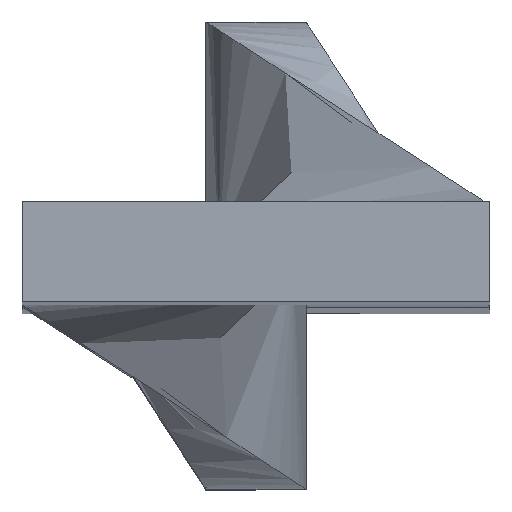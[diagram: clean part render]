
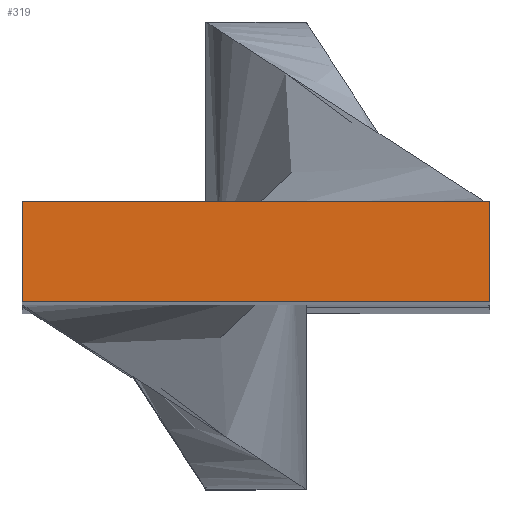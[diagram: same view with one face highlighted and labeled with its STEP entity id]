
A CAD part, top view. The second image highlights one B-rep face of the part: STEP entity #319.
In plain terms, the highlighted planar face has unit normal (0, 0, 1).
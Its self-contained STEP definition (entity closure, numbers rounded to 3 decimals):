
#75 = LINE ( 'NONE', #630, #367 ) ;
#84 = LINE ( 'NONE', #187, #404 ) ;
#95 = VERTEX_POINT ( 'NONE', #640 ) ;
#132 = CARTESIAN_POINT ( 'NONE',  ( 0., 0., 208.5 ) ) ;
#134 = DIRECTION ( 'NONE',  ( -1., 0., 0. ) ) ;
#183 = DIRECTION ( 'NONE',  ( 0., 1., 0. ) ) ;
#187 = CARTESIAN_POINT ( 'NONE',  ( -7., -1.5, 208.5 ) ) ;
#211 = EDGE_LOOP ( 'NONE', ( #621, #316, #597, #219 ) ) ;
#217 = DIRECTION ( 'NONE',  ( 0., 0., -1. ) ) ;
#219 = ORIENTED_EDGE ( 'NONE', *, *, #459, .F. ) ;
#236 = PLANE ( 'NONE',  #677 ) ;
#260 = CARTESIAN_POINT ( 'NONE',  ( -7., 1.5, 208.5 ) ) ;
#267 = DIRECTION ( 'NONE',  ( 1., 0., 0. ) ) ;
#302 = CARTESIAN_POINT ( 'NONE',  ( 7., 1.5, 208.5 ) ) ;
#305 = DIRECTION ( 'NONE',  ( 0., -1., 0. ) ) ;
#316 = ORIENTED_EDGE ( 'NONE', *, *, #553, .F. ) ;
#319 = ADVANCED_FACE ( 'NONE', ( #817 ), #236, .F. ) ;
#356 = LINE ( 'NONE', #260, #699 ) ;
#363 = EDGE_CURVE ( 'NONE', #633, #95, #84, .T. ) ;
#367 = VECTOR ( 'NONE', #615, 1000. ) ;
#404 = VECTOR ( 'NONE', #183, 1000. ) ;
#454 = CARTESIAN_POINT ( 'NONE',  ( 7., 1.5, 208.5 ) ) ;
#459 = EDGE_CURVE ( 'NONE', #95, #813, #356, .T. ) ;
#476 = EDGE_CURVE ( 'NONE', #813, #653, #529, .T. ) ;
#529 = LINE ( 'NONE', #302, #853 ) ;
#553 = EDGE_CURVE ( 'NONE', #653, #633, #75, .T. ) ;
#597 = ORIENTED_EDGE ( 'NONE', *, *, #476, .F. ) ;
#615 = DIRECTION ( 'NONE',  ( -1., 0., 0. ) ) ;
#621 = ORIENTED_EDGE ( 'NONE', *, *, #363, .F. ) ;
#630 = CARTESIAN_POINT ( 'NONE',  ( 7., -1.5, 208.5 ) ) ;
#633 = VERTEX_POINT ( 'NONE', #667 ) ;
#640 = CARTESIAN_POINT ( 'NONE',  ( -7., 1.5, 208.5 ) ) ;
#653 = VERTEX_POINT ( 'NONE', #730 ) ;
#667 = CARTESIAN_POINT ( 'NONE',  ( -7., -1.5, 208.5 ) ) ;
#677 = AXIS2_PLACEMENT_3D ( 'NONE', #132, #217, #134 ) ;
#699 = VECTOR ( 'NONE', #267, 1000. ) ;
#730 = CARTESIAN_POINT ( 'NONE',  ( 7., -1.5, 208.5 ) ) ;
#813 = VERTEX_POINT ( 'NONE', #454 ) ;
#817 = FACE_OUTER_BOUND ( 'NONE', #211, .T. ) ;
#853 = VECTOR ( 'NONE', #305, 1000. ) ;
